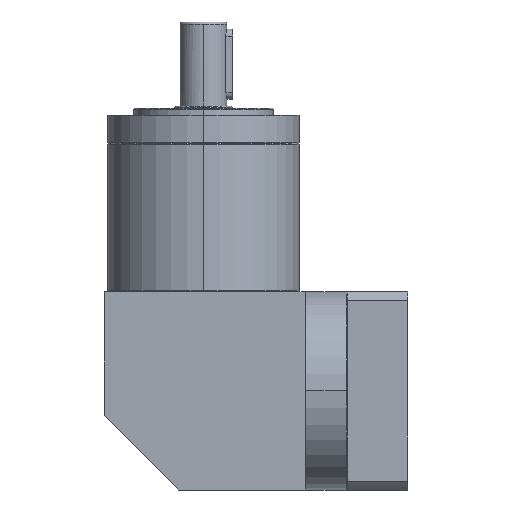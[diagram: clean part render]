
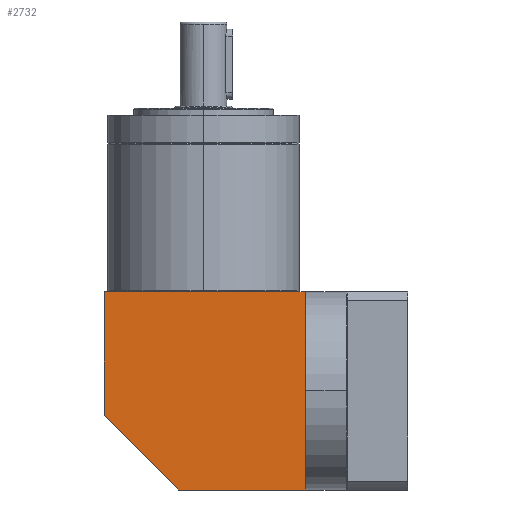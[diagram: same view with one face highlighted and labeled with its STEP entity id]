
A CAD part, front view. The second image highlights one B-rep face of the part: STEP entity #2732.
In plain terms, the highlighted planar face has unit normal (0, -1, 0).
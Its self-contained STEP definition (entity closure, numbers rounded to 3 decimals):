
#2482=DIRECTION('',(0.,0.,-1.));
#2483=VECTOR('',#2482,85.);
#2484=CARTESIAN_POINT('',(86.,-42.5,42.5));
#2485=LINE('',#2484,#2483);
#2486=DIRECTION('',(-1.,0.,0.));
#2487=VECTOR('',#2486,54.);
#2488=CARTESIAN_POINT('',(86.,-42.5,-42.5));
#2489=LINE('',#2488,#2487);
#2490=DIRECTION('',(-0.707,0.,0.707));
#2491=VECTOR('',#2490,45.255);
#2492=CARTESIAN_POINT('',(32.,-42.5,-42.5));
#2493=LINE('',#2492,#2491);
#2494=DIRECTION('',(1.,0.,0.));
#2495=VECTOR('',#2494,86.);
#2496=CARTESIAN_POINT('',(0.,-42.5,42.5));
#2497=LINE('',#2496,#2495);
#2506=DIRECTION('',(0.,0.,-1.));
#2507=VECTOR('',#2506,53.);
#2508=CARTESIAN_POINT('',(0.,-42.5,42.5));
#2509=LINE('',#2508,#2507);
#2609=CARTESIAN_POINT('',(86.,-42.5,-42.5));
#2611=VERTEX_POINT('',#2609);
#2614=CARTESIAN_POINT('',(32.,-42.5,-42.5));
#2615=VERTEX_POINT('',#2614);
#2618=CARTESIAN_POINT('',(86.,-42.5,42.5));
#2619=VERTEX_POINT('',#2618);
#2628=CARTESIAN_POINT('',(0.,-42.5,42.5));
#2629=VERTEX_POINT('',#2628);
#2634=CARTESIAN_POINT('',(0.,-42.5,-10.5));
#2635=VERTEX_POINT('',#2634);
#2718=CARTESIAN_POINT('',(0.,-42.5,42.5));
#2719=DIRECTION('',(0.,-1.,0.));
#2720=DIRECTION('',(0.,0.,-1.));
#2721=AXIS2_PLACEMENT_3D('',#2718,#2719,#2720);
#2722=PLANE('',#2721);
#2723=ORIENTED_EDGE('',*,*,#2669,.T.);
#2724=ORIENTED_EDGE('',*,*,#2656,.T.);
#2726=ORIENTED_EDGE('',*,*,#2725,.T.);
#2728=ORIENTED_EDGE('',*,*,#2727,.F.);
#2729=ORIENTED_EDGE('',*,*,#2704,.T.);
#2730=EDGE_LOOP('',(#2723,#2724,#2726,#2728,#2729));
#2731=FACE_OUTER_BOUND('',#2730,.F.);
#2732=ADVANCED_FACE('',(#2731),#2722,.T.);
#2656=EDGE_CURVE('',#2611,#2615,#2489,.T.);
#2669=EDGE_CURVE('',#2619,#2611,#2485,.T.);
#2704=EDGE_CURVE('',#2629,#2619,#2497,.T.);
#2725=EDGE_CURVE('',#2615,#2635,#2493,.T.);
#2727=EDGE_CURVE('',#2629,#2635,#2509,.T.);
